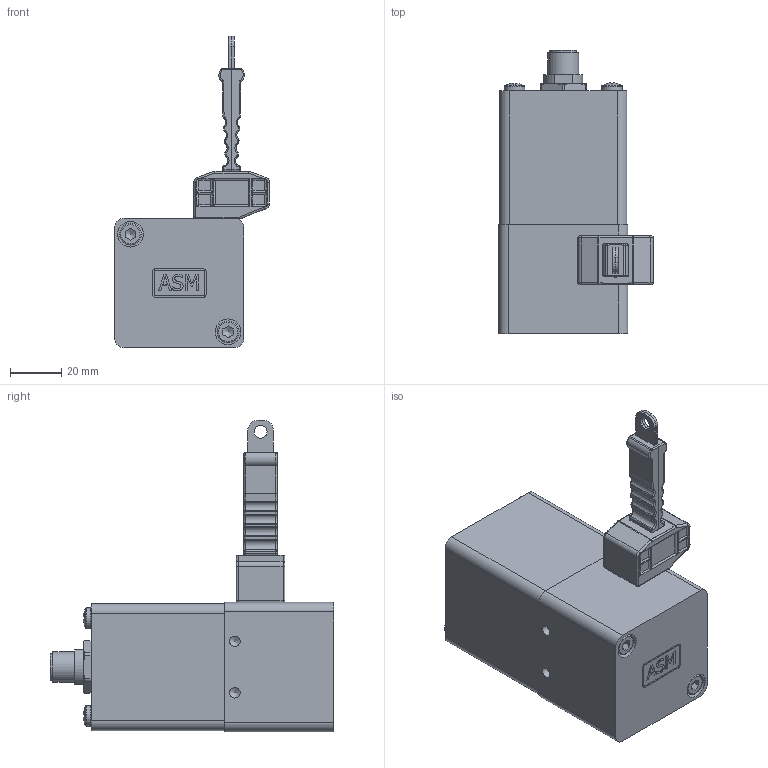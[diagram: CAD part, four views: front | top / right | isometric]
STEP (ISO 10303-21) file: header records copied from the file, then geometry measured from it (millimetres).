
FILE_DESCRIPTION((''),'2;1');
FILE_NAME('K:\Daten\wBauteil5.stp','2012-10-15T13:22:11',('kamp'),(''),'Autodesk Inventor 2008','Autodesk Inventor 2008','');
FILE_SCHEMA(('AUTOMOTIVE_DESIGN { 1 0 10303 214 1 1 1 1 }'));
Length unit declared in the file: millimetre
Products named in the file (1): Bauteil5
Bounding box: 60.25 x 110.4 x 121.22 mm (x, y, z)
Volume: 247361.2 mm3; surface area: 30131.4 mm2
Topology: 1 solids, 1 shells, 500 faces, 1289 edges, 794 vertices
Faces by surface type: plane 183, cylinder 139, bspline 128, sphere 39, cone 6, torus 5
Full cylindrical faces by diameter (mm): 1 x5, 8 x2, 8.3 x1, 8.5 x2, 10.4 x1, 12 x1
Entity records: 18140 total; most frequent: CARTESIAN_POINT 6453, ORIENTED_EDGE 2408, DIRECTION 2247, EDGE_CURVE 1204, AXIS2_PLACEMENT_3D 808, VERTEX_POINT 775, VECTOR 631, LINE 631
